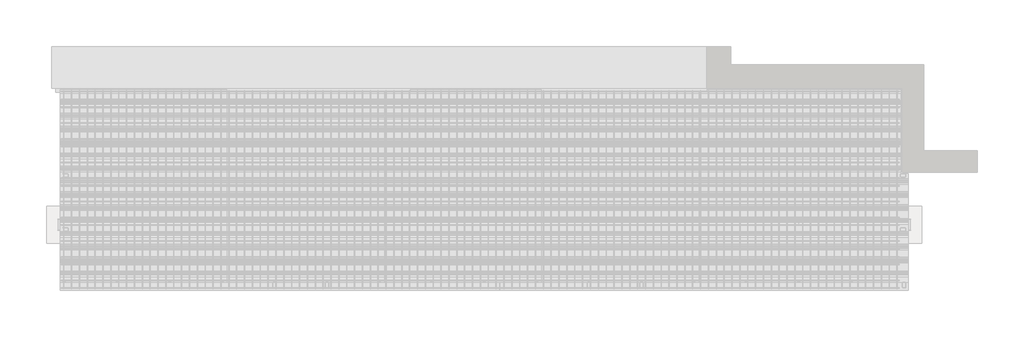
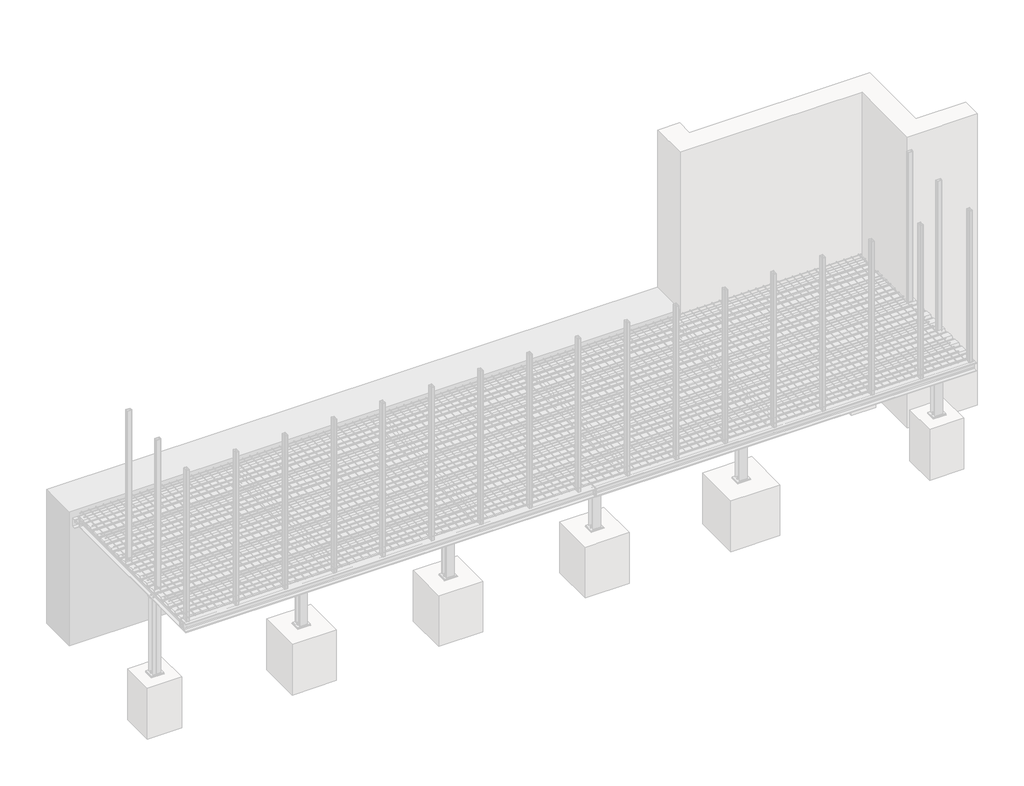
# One storey, part 29 of 36: 29 assemblies.
"""IFC4 building model written with IfcOpenShell, lengths in millimetres."""

from ifc_helpers import new_model, si_unit, point, frame, frame_2d, origin, place, context, project, spatial, polyline, circle_curve, trimmed, segment, composite_curve, outline, extrude, faceted_brep, element, save

model = new_model("IFC4")

# Units and contexts
model_context = context("Model", 3, world=origin())
ifc_project = project(units=[si_unit("LENGTHUNIT", "METRE", prefix="MILLI")], contexts=[model_context])

# Site, building, storey
site = spatial("IfcSite", under=ifc_project)
building = spatial("IfcBuilding", under=site)
storey = spatial("IfcBuildingStorey", under=building, Name="Základy", Elevation=-1200.0)

# Assemblies
placement = place(None, origin())
element("IfcElementAssembly", 1, at=placement, inside=storey, context=model_context, shape_type="SweptSolid", body=[
    extrude(outline(composite_curve([segment(polyline([(11073.6, 60.0), (11026.4, 60.0)]), True, "CONTINUOUS"), segment(trimmed(circle_curve(frame_2d((11026.4, 66.4)), 6.4), [point((11026.4, 60.0))], [point((11020.0, 66.4))], False, "CARTESIAN"), True, "CONTINUOUS"), segment(polyline([(11020.0, 66.4), (11020.0, 153.6)]), True, "CONTINUOUS"), segment(trimmed(circle_curve(frame_2d((11026.4, 153.6)), 6.4), [point((11020.0, 153.6))], [point((11026.4, 160.0))], False, "CARTESIAN"), True, "CONTINUOUS"), segment(polyline([(11026.4, 160.0), (11073.6, 160.0)]), True, "CONTINUOUS"), segment(trimmed(circle_curve(frame_2d((11073.6, 153.6)), 6.4), [point((11073.6, 160.0))], [point((11080.0, 153.6))], False, "CARTESIAN"), True, "CONTINUOUS"), segment(polyline([(11080.0, 153.6), (11080.0, 66.4)]), True, "CONTINUOUS"), segment(trimmed(circle_curve(frame_2d((11073.6, 66.4)), 6.4), [point((11080.0, 66.4))], [point((11073.6, 60.0))], False, "CARTESIAN"), True, "CONTINUOUS")], self_intersect=False), holes=[composite_curve([segment(trimmed(circle_curve(frame_2d((11073.6, 66.4)), 3.2), [point((11073.6, 63.2))], [point((11076.8, 66.4))], True, "CARTESIAN"), True, "CONTINUOUS"), segment(polyline([(11076.8, 66.4), (11076.8, 153.6)]), True, "CONTINUOUS"), segment(trimmed(circle_curve(frame_2d((11073.6, 153.6)), 3.2), [point((11076.8, 153.6))], [point((11073.6, 156.8))], True, "CARTESIAN"), True, "CONTINUOUS"), segment(polyline([(11073.6, 156.8), (11026.4, 156.8)]), True, "CONTINUOUS"), segment(trimmed(circle_curve(frame_2d((11026.4, 153.6)), 3.2), [point((11026.4, 156.8))], [point((11023.2, 153.6))], True, "CARTESIAN"), True, "CONTINUOUS"), segment(polyline([(11023.2, 153.6), (11023.2, 66.4)]), True, "CONTINUOUS"), segment(trimmed(circle_curve(frame_2d((11026.4, 66.4)), 3.2), [point((11023.2, 66.4))], [point((11026.4, 63.2))], True, "CARTESIAN"), True, "CONTINUOUS"), segment(polyline([(11026.4, 63.2), (11073.6, 63.2)]), True, "CONTINUOUS")], self_intersect=False)]), frame((0.0, 0.0, -160.0), z_axis=(0.0, 0.0, 1.0), x_axis=(1.0, 0.0, 0.0)), (0.0, 0.0, 1.0), 3320.0),
])
element("IfcElementAssembly", 2, at=placement, inside=storey, context=model_context, shape_type="SweptSolid", body=[
    extrude(outline(composite_curve([segment(polyline([(10073.6, 60.0), (10026.4, 60.0)]), True, "CONTINUOUS"), segment(trimmed(circle_curve(frame_2d((10026.4, 66.4)), 6.4), [point((10026.4, 60.0))], [point((10020.0, 66.4))], False, "CARTESIAN"), True, "CONTINUOUS"), segment(polyline([(10020.0, 66.4), (10020.0, 153.6)]), True, "CONTINUOUS"), segment(trimmed(circle_curve(frame_2d((10026.4, 153.6)), 6.4), [point((10020.0, 153.6))], [point((10026.4, 160.0))], False, "CARTESIAN"), True, "CONTINUOUS"), segment(polyline([(10026.4, 160.0), (10073.6, 160.0)]), True, "CONTINUOUS"), segment(trimmed(circle_curve(frame_2d((10073.6, 153.6)), 6.4), [point((10073.6, 160.0))], [point((10080.0, 153.6))], False, "CARTESIAN"), True, "CONTINUOUS"), segment(polyline([(10080.0, 153.6), (10080.0, 66.4)]), True, "CONTINUOUS"), segment(trimmed(circle_curve(frame_2d((10073.6, 66.4)), 6.4), [point((10080.0, 66.4))], [point((10073.6, 60.0))], False, "CARTESIAN"), True, "CONTINUOUS")], self_intersect=False), holes=[composite_curve([segment(trimmed(circle_curve(frame_2d((10073.6, 66.4)), 3.2), [point((10073.6, 63.2))], [point((10076.8, 66.4))], True, "CARTESIAN"), True, "CONTINUOUS"), segment(polyline([(10076.8, 66.4), (10076.8, 153.6)]), True, "CONTINUOUS"), segment(trimmed(circle_curve(frame_2d((10073.6, 153.6)), 3.2), [point((10076.8, 153.6))], [point((10073.6, 156.8))], True, "CARTESIAN"), True, "CONTINUOUS"), segment(polyline([(10073.6, 156.8), (10026.4, 156.8)]), True, "CONTINUOUS"), segment(trimmed(circle_curve(frame_2d((10026.4, 153.6)), 3.2), [point((10026.4, 156.8))], [point((10023.2, 153.6))], True, "CARTESIAN"), True, "CONTINUOUS"), segment(polyline([(10023.2, 153.6), (10023.2, 66.4)]), True, "CONTINUOUS"), segment(trimmed(circle_curve(frame_2d((10026.4, 66.4)), 3.2), [point((10023.2, 66.4))], [point((10026.4, 63.2))], True, "CARTESIAN"), True, "CONTINUOUS"), segment(polyline([(10026.4, 63.2), (10073.6, 63.2)]), True, "CONTINUOUS")], self_intersect=False)]), frame((0.0, 0.0, -160.0), z_axis=(0.0, 0.0, 1.0), x_axis=(1.0, 0.0, 0.0)), (0.0, 0.0, 1.0), 3320.0),
])
element("IfcElementAssembly", 3, at=placement, inside=storey, context=model_context, shape_type="SweptSolid", body=[
    extrude(outline(composite_curve([segment(polyline([(1200.0, -193.0), (1320.0, -193.0), (1320.0, -201.0), (1274.5, -201.0)]), True, "CONTINUOUS"), segment(trimmed(circle_curve(frame_2d((1274.5, -213.0)), 12.0), [point((1274.5, -201.0))], [point((1262.5, -213.0))], True, "CARTESIAN"), True, "CONTINUOUS"), segment(polyline([(1262.5, -213.0), (1262.5, -287.0)]), True, "CONTINUOUS"), segment(trimmed(circle_curve(frame_2d((1274.5, -287.0)), 12.0), [point((1262.5, -287.0))], [point((1274.5, -299.0))], True, "CARTESIAN"), True, "CONTINUOUS"), segment(polyline([(1274.5, -299.0), (1320.0, -299.0), (1320.0, -307.0), (1200.0, -307.0), (1200.0, -299.0), (1245.5, -299.0)]), True, "CONTINUOUS"), segment(trimmed(circle_curve(frame_2d((1245.5, -287.0)), 12.0), [point((1245.5, -299.0))], [point((1257.5, -287.0))], True, "CARTESIAN"), True, "CONTINUOUS"), segment(polyline([(1257.5, -287.0), (1257.5, -213.0)]), True, "CONTINUOUS"), segment(trimmed(circle_curve(frame_2d((1245.5, -213.0)), 12.0), [point((1257.5, -213.0))], [point((1245.5, -201.0))], True, "CARTESIAN"), True, "CONTINUOUS"), segment(polyline([(1245.5, -201.0), (1200.0, -201.0), (1200.0, -193.0)]), True, "CONTINUOUS")], self_intersect=False)), frame((9160.0, 0.0, 0.0), z_axis=(1.0, 0.0, 0.0), x_axis=(0.0, 1.0, 0.0)), (0.0, 0.0, 1.0), 2780.0),
    extrude(outline(polyline([(11940.0, 1200.0), (11940.0, 1320.0), (11950.0, 1320.0), (11950.0, 1200.0), (11940.0, 1200.0)])), frame((0.0, 0.0, -299.0), z_axis=(0.0, 0.0, 1.0), x_axis=(1.0, 0.0, 0.0)), (0.0, 0.0, 1.0), 98.0),
    extrude(outline(polyline([(9150.0, 1200.0), (9150.0, 1320.0), (9160.0, 1320.0), (9160.0, 1200.0), (9150.0, 1200.0)])), frame((0.0, 0.0, -299.0), z_axis=(0.0, 0.0, 1.0), x_axis=(1.0, 0.0, 0.0)), (0.0, 0.0, 1.0), 98.0),
])
element("IfcElementAssembly", 4, at=placement, inside=storey, context=model_context, shape_type="SweptSolid", body=[
    extrude(outline(composite_curve([segment(polyline([(9130.0, 1184.0), (8970.0, 1184.0), (8970.0, 1193.0), (9032.0, 1193.0)]), True, "CONTINUOUS"), segment(trimmed(circle_curve(frame_2d((9032.0, 1208.0)), 15.0), [point((9032.0, 1193.0))], [point((9047.0, 1208.0))], True, "CARTESIAN"), True, "CONTINUOUS"), segment(polyline([(9047.0, 1208.0), (9047.0, 1312.0)]), True, "CONTINUOUS"), segment(trimmed(circle_curve(frame_2d((9032.0, 1312.0)), 15.0), [point((9047.0, 1312.0))], [point((9032.0, 1327.0))], True, "CARTESIAN"), True, "CONTINUOUS"), segment(polyline([(9032.0, 1327.0), (8970.0, 1327.0), (8970.0, 1336.0), (9130.0, 1336.0), (9130.0, 1327.0), (9068.0, 1327.0)]), True, "CONTINUOUS"), segment(trimmed(circle_curve(frame_2d((9068.0, 1312.0)), 15.0), [point((9068.0, 1327.0))], [point((9053.0, 1312.0))], True, "CARTESIAN"), True, "CONTINUOUS"), segment(polyline([(9053.0, 1312.0), (9053.0, 1208.0)]), True, "CONTINUOUS"), segment(trimmed(circle_curve(frame_2d((9068.0, 1208.0)), 15.0), [point((9053.0, 1208.0))], [point((9068.0, 1193.0))], True, "CARTESIAN"), True, "CONTINUOUS"), segment(polyline([(9068.0, 1193.0), (9130.0, 1193.0), (9130.0, 1184.0)]), True, "CONTINUOUS")], self_intersect=False)), frame((0.0, 0.0, -1975.0), z_axis=(0.0, 0.0, 1.0), x_axis=(1.0, 0.0, 0.0)), (0.0, 0.0, 1.0), 1625.0),
    extrude(outline(polyline([(9175.0, 1356.0), (9175.0, 1164.0), (8925.0, 1164.0), (8925.0, 1356.0), (9175.0, 1356.0)])), frame((0.0, 0.0, -1990.0), z_axis=(0.0, 0.0, 1.0), x_axis=(1.0, 0.0, 0.0)), (0.0, 0.0, 1.0), 15.0),
    extrude(outline(polyline([(9140.0, 1346.0), (9140.0, 1174.0), (8960.0, 1174.0), (8960.0, 1346.0), (9140.0, 1346.0)])), frame((0.0, 0.0, -350.0), z_axis=(0.0, 0.0, 1.0), x_axis=(1.0, 0.0, 0.0)), (0.0, 0.0, 1.0), 10.0),
    extrude(outline(polyline([(8982.7364934, 1260.0), (8978.8682467, 1253.3000002), (8971.1317533, 1253.3000002), (8967.2635066, 1260.0), (8971.1317533, 1266.6999998), (8978.8682467, 1266.6999998), (8982.7364934, 1260.0)])), frame((0.0, 0.0, -2122.0), z_axis=(0.0, 0.0, 1.0), x_axis=(1.0, 0.0, 0.0)), (0.0, 0.0, 1.0), 132.0),
    extrude(outline(composite_curve([segment(trimmed(circle_curve(frame_2d((8975.0, 1260.0)), 8.0), [point((8983.0, 1260.0))], [point((8967.0, 1260.0))], False, "CARTESIAN"), True, "CONTINUOUS"), segment(trimmed(circle_curve(frame_2d((8975.0, 1260.0)), 8.0), [point((8967.0, 1260.0))], [point((8983.0, 1260.0))], False, "CARTESIAN"), True, "CONTINUOUS")], self_intersect=False)), frame((0.0, 0.0, -1990.0), z_axis=(0.0, 0.0, 1.0), x_axis=(1.0, 0.0, 0.0)), (0.0, 0.0, 1.0), 58.0),
    extrude(outline(composite_curve([segment(trimmed(circle_curve(frame_2d((8975.0, 1260.0)), 15.0), [point((8990.0, 1260.0))], [point((8960.0, 1260.0))], False, "CARTESIAN"), True, "CONTINUOUS"), segment(trimmed(circle_curve(frame_2d((8975.0, 1260.0)), 15.0), [point((8960.0, 1260.0))], [point((8990.0, 1260.0))], False, "CARTESIAN"), True, "CONTINUOUS")], self_intersect=False)), frame((0.0, 0.0, -1975.0), z_axis=(0.0, 0.0, 1.0), x_axis=(1.0, 0.0, 0.0)), (0.0, 0.0, 1.0), 3.0),
    extrude(outline(polyline([(8990.4441197, 1260.0), (8982.7220599, 1246.625), (8967.2779401, 1246.625), (8959.5558803, 1260.0), (8967.2779401, 1273.375), (8982.7220599, 1273.375), (8990.4441197, 1260.0)])), frame((0.0, 0.0, -1972.0), z_axis=(0.0, 0.0, 1.0), x_axis=(1.0, 0.0, 0.0)), (0.0, 0.0, 1.0), 13.0),
    extrude(outline(composite_curve([segment(trimmed(circle_curve(frame_2d((8975.0, 1260.0)), 9.0), [point((8984.0, 1260.0))], [point((8966.0, 1260.0))], False, "CARTESIAN"), True, "CONTINUOUS"), segment(trimmed(circle_curve(frame_2d((8975.0, 1260.0)), 9.0), [point((8966.0, 1260.0))], [point((8984.0, 1260.0))], False, "CARTESIAN"), True, "CONTINUOUS")], self_intersect=False)), frame((0.0, 0.0, -1990.0), z_axis=(0.0, 0.0, 1.0), x_axis=(1.0, 0.0, 0.0)), (0.0, 0.0, 1.0), 15.1),
    extrude(outline(polyline([(9132.7364934, 1260.0), (9128.8682467, 1253.3000002), (9121.1317533, 1253.3000002), (9117.2635066, 1260.0), (9121.1317533, 1266.6999998), (9128.8682467, 1266.6999998), (9132.7364934, 1260.0)])), frame((0.0, 0.0, -2122.0), z_axis=(0.0, 0.0, 1.0), x_axis=(1.0, 0.0, 0.0)), (0.0, 0.0, 1.0), 132.0),
    extrude(outline(composite_curve([segment(trimmed(circle_curve(frame_2d((9125.0, 1260.0)), 8.0), [point((9133.0, 1260.0))], [point((9117.0, 1260.0))], False, "CARTESIAN"), True, "CONTINUOUS"), segment(trimmed(circle_curve(frame_2d((9125.0, 1260.0)), 8.0), [point((9117.0, 1260.0))], [point((9133.0, 1260.0))], False, "CARTESIAN"), True, "CONTINUOUS")], self_intersect=False)), frame((0.0, 0.0, -1990.0), z_axis=(0.0, 0.0, 1.0), x_axis=(1.0, 0.0, 0.0)), (0.0, 0.0, 1.0), 58.0),
    extrude(outline(composite_curve([segment(trimmed(circle_curve(frame_2d((9125.0, 1260.0)), 15.0), [point((9140.0, 1260.0))], [point((9110.0, 1260.0))], False, "CARTESIAN"), True, "CONTINUOUS"), segment(trimmed(circle_curve(frame_2d((9125.0, 1260.0)), 15.0), [point((9110.0, 1260.0))], [point((9140.0, 1260.0))], False, "CARTESIAN"), True, "CONTINUOUS")], self_intersect=False)), frame((0.0, 0.0, -1975.0), z_axis=(0.0, 0.0, 1.0), x_axis=(1.0, 0.0, 0.0)), (0.0, 0.0, 1.0), 3.0),
    extrude(outline(polyline([(9140.4441197, 1260.0), (9132.7220599, 1246.625), (9117.2779401, 1246.625), (9109.5558803, 1260.0), (9117.2779401, 1273.375), (9132.7220599, 1273.375), (9140.4441197, 1260.0)])), frame((0.0, 0.0, -1972.0), z_axis=(0.0, 0.0, 1.0), x_axis=(1.0, 0.0, 0.0)), (0.0, 0.0, 1.0), 13.0),
    extrude(outline(composite_curve([segment(trimmed(circle_curve(frame_2d((9125.0, 1260.0)), 9.0), [point((9134.0, 1260.0))], [point((9116.0, 1260.0))], False, "CARTESIAN"), True, "CONTINUOUS"), segment(trimmed(circle_curve(frame_2d((9125.0, 1260.0)), 9.0), [point((9116.0, 1260.0))], [point((9134.0, 1260.0))], False, "CARTESIAN"), True, "CONTINUOUS")], self_intersect=False)), frame((0.0, 0.0, -1990.0), z_axis=(0.0, 0.0, 1.0), x_axis=(1.0, 0.0, 0.0)), (0.0, 0.0, 1.0), 15.1),
    extrude(outline(composite_curve([segment(trimmed(circle_curve(frame_2d((9000.0, 1220.0)), 6.5), [point((9006.5, 1220.0))], [point((8993.5, 1220.0))], False, "CARTESIAN"), True, "CONTINUOUS"), segment(trimmed(circle_curve(frame_2d((9000.0, 1220.0)), 6.5), [point((8993.5, 1220.0))], [point((9006.5, 1220.0))], False, "CARTESIAN"), True, "CONTINUOUS")], self_intersect=False)), frame((0.0, 0.0, -350.0), z_axis=(0.0, 0.0, 1.0), x_axis=(1.0, 0.0, 0.0)), (0.0, 0.0, 1.0), 10.1),
    extrude(outline(polyline([(9010.3923048, 1220.0), (9005.1961524, 1211.0), (8994.8038476, 1211.0), (8989.6076952, 1220.0), (8994.8038476, 1229.0), (9005.1961524, 1229.0), (9010.3923048, 1220.0)])), frame((0.0, 0.0, -323.5), z_axis=(0.0, 0.0, 1.0), x_axis=(1.0, 0.0, 0.0)), (0.0, 0.0, 1.0), 7.5),
    extrude(outline(composite_curve([segment(trimmed(circle_curve(frame_2d((9000.0, 1220.0)), 6.0), [point((9006.0, 1220.0))], [point((8994.0, 1220.0))], False, "CARTESIAN"), True, "CONTINUOUS"), segment(trimmed(circle_curve(frame_2d((9000.0, 1220.0)), 6.0), [point((8994.0, 1220.0))], [point((9006.0, 1220.0))], False, "CARTESIAN"), True, "CONTINUOUS")], self_intersect=False)), frame((0.0, 0.0, -368.5), z_axis=(0.0, 0.0, 1.0), x_axis=(1.0, 0.0, 0.0)), (0.0, 0.0, 1.0), 45.0),
    extrude(outline(composite_curve([segment(trimmed(circle_curve(frame_2d((9000.0, 1220.0)), 12.0), [point((9012.0, 1220.0))], [point((8988.0, 1220.0))], False, "CARTESIAN"), True, "CONTINUOUS"), segment(trimmed(circle_curve(frame_2d((9000.0, 1220.0)), 12.0), [point((8988.0, 1220.0))], [point((9012.0, 1220.0))], False, "CARTESIAN"), True, "CONTINUOUS")], self_intersect=False)), frame((0.0, 0.0, -326.0), z_axis=(0.0, 0.0, 1.0), x_axis=(1.0, 0.0, 0.0)), (0.0, 0.0, 1.0), 2.5),
    extrude(outline(composite_curve([segment(trimmed(circle_curve(frame_2d((9000.0, 1220.0)), 12.0), [point((9012.0, 1220.0))], [point((8988.0, 1220.0))], False, "CARTESIAN"), True, "CONTINUOUS"), segment(trimmed(circle_curve(frame_2d((9000.0, 1220.0)), 12.0), [point((8988.0, 1220.0))], [point((9012.0, 1220.0))], False, "CARTESIAN"), True, "CONTINUOUS")], self_intersect=False)), frame((0.0, 0.0, -352.5), z_axis=(0.0, 0.0, 1.0), x_axis=(1.0, 0.0, 0.0)), (0.0, 0.0, 1.0), 2.5),
    extrude(outline(polyline([(9010.9696551, 1220.0), (9005.4848276, 1210.5), (8994.5151724, 1210.5), (8989.0303449, 1220.0), (8994.5151724, 1229.5), (9005.4848276, 1229.5), (9010.9696551, 1220.0)])), frame((0.0, 0.0, -362.5), z_axis=(0.0, 0.0, 1.0), x_axis=(1.0, 0.0, 0.0)), (0.0, 0.0, 1.0), 10.0),
    extrude(outline(composite_curve([segment(trimmed(circle_curve(frame_2d((9000.0, 1220.0)), 6.5), [point((9006.5, 1220.0))], [point((8993.5, 1220.0))], False, "CARTESIAN"), True, "CONTINUOUS"), segment(trimmed(circle_curve(frame_2d((9000.0, 1220.0)), 6.5), [point((8993.5, 1220.0))], [point((9006.5, 1220.0))], False, "CARTESIAN"), True, "CONTINUOUS")], self_intersect=False)), frame((0.0, 0.0, -340.1), z_axis=(0.0, 0.0, 1.0), x_axis=(1.0, 0.0, 0.0)), (0.0, 0.0, 1.0), 14.0),
    extrude(outline(composite_curve([segment(trimmed(circle_curve(frame_2d((9100.0, 1220.0)), 6.5), [point((9106.5, 1220.0))], [point((9093.5, 1220.0))], False, "CARTESIAN"), True, "CONTINUOUS"), segment(trimmed(circle_curve(frame_2d((9100.0, 1220.0)), 6.5), [point((9093.5, 1220.0))], [point((9106.5, 1220.0))], False, "CARTESIAN"), True, "CONTINUOUS")], self_intersect=False)), frame((0.0, 0.0, -350.0), z_axis=(0.0, 0.0, 1.0), x_axis=(1.0, 0.0, 0.0)), (0.0, 0.0, 1.0), 10.1),
    extrude(outline(polyline([(9110.3923048, 1220.0), (9105.1961524, 1211.0), (9094.8038476, 1211.0), (9089.6076952, 1220.0), (9094.8038476, 1229.0), (9105.1961524, 1229.0), (9110.3923048, 1220.0)])), frame((0.0, 0.0, -323.5), z_axis=(0.0, 0.0, 1.0), x_axis=(1.0, 0.0, 0.0)), (0.0, 0.0, 1.0), 7.5),
    extrude(outline(composite_curve([segment(trimmed(circle_curve(frame_2d((9100.0, 1220.0)), 6.0), [point((9106.0, 1220.0))], [point((9094.0, 1220.0))], False, "CARTESIAN"), True, "CONTINUOUS"), segment(trimmed(circle_curve(frame_2d((9100.0, 1220.0)), 6.0), [point((9094.0, 1220.0))], [point((9106.0, 1220.0))], False, "CARTESIAN"), True, "CONTINUOUS")], self_intersect=False)), frame((0.0, 0.0, -368.5), z_axis=(0.0, 0.0, 1.0), x_axis=(1.0, 0.0, 0.0)), (0.0, 0.0, 1.0), 45.0),
    extrude(outline(composite_curve([segment(trimmed(circle_curve(frame_2d((9100.0, 1220.0)), 12.0), [point((9112.0, 1220.0))], [point((9088.0, 1220.0))], False, "CARTESIAN"), True, "CONTINUOUS"), segment(trimmed(circle_curve(frame_2d((9100.0, 1220.0)), 12.0), [point((9088.0, 1220.0))], [point((9112.0, 1220.0))], False, "CARTESIAN"), True, "CONTINUOUS")], self_intersect=False)), frame((0.0, 0.0, -326.0), z_axis=(0.0, 0.0, 1.0), x_axis=(1.0, 0.0, 0.0)), (0.0, 0.0, 1.0), 2.5),
    extrude(outline(composite_curve([segment(trimmed(circle_curve(frame_2d((9100.0, 1220.0)), 12.0), [point((9112.0, 1220.0))], [point((9088.0, 1220.0))], False, "CARTESIAN"), True, "CONTINUOUS"), segment(trimmed(circle_curve(frame_2d((9100.0, 1220.0)), 12.0), [point((9088.0, 1220.0))], [point((9112.0, 1220.0))], False, "CARTESIAN"), True, "CONTINUOUS")], self_intersect=False)), frame((0.0, 0.0, -352.5), z_axis=(0.0, 0.0, 1.0), x_axis=(1.0, 0.0, 0.0)), (0.0, 0.0, 1.0), 2.5),
    extrude(outline(polyline([(9110.9696551, 1220.0), (9105.4848276, 1210.5), (9094.5151724, 1210.5), (9089.0303449, 1220.0), (9094.5151724, 1229.5), (9105.4848276, 1229.5), (9110.9696551, 1220.0)])), frame((0.0, 0.0, -362.5), z_axis=(0.0, 0.0, 1.0), x_axis=(1.0, 0.0, 0.0)), (0.0, 0.0, 1.0), 10.0),
    extrude(outline(composite_curve([segment(trimmed(circle_curve(frame_2d((9100.0, 1220.0)), 6.5), [point((9106.5, 1220.0))], [point((9093.5, 1220.0))], False, "CARTESIAN"), True, "CONTINUOUS"), segment(trimmed(circle_curve(frame_2d((9100.0, 1220.0)), 6.5), [point((9093.5, 1220.0))], [point((9106.5, 1220.0))], False, "CARTESIAN"), True, "CONTINUOUS")], self_intersect=False)), frame((0.0, 0.0, -340.1), z_axis=(0.0, 0.0, 1.0), x_axis=(1.0, 0.0, 0.0)), (0.0, 0.0, 1.0), 14.0),
    extrude(outline(composite_curve([segment(trimmed(circle_curve(frame_2d((9000.0, 1300.0)), 6.5), [point((9006.5, 1300.0))], [point((8993.5, 1300.0))], False, "CARTESIAN"), True, "CONTINUOUS"), segment(trimmed(circle_curve(frame_2d((9000.0, 1300.0)), 6.5), [point((8993.5, 1300.0))], [point((9006.5, 1300.0))], False, "CARTESIAN"), True, "CONTINUOUS")], self_intersect=False)), frame((0.0, 0.0, -350.0), z_axis=(0.0, 0.0, 1.0), x_axis=(1.0, 0.0, 0.0)), (0.0, 0.0, 1.0), 10.1),
    extrude(outline(polyline([(9010.3923048, 1300.0), (9005.1961524, 1291.0), (8994.8038476, 1291.0), (8989.6076952, 1300.0), (8994.8038476, 1309.0), (9005.1961524, 1309.0), (9010.3923048, 1300.0)])), frame((0.0, 0.0, -323.5), z_axis=(0.0, 0.0, 1.0), x_axis=(1.0, 0.0, 0.0)), (0.0, 0.0, 1.0), 7.5),
    extrude(outline(composite_curve([segment(trimmed(circle_curve(frame_2d((9000.0, 1300.0)), 6.0), [point((9006.0, 1300.0))], [point((8994.0, 1300.0))], False, "CARTESIAN"), True, "CONTINUOUS"), segment(trimmed(circle_curve(frame_2d((9000.0, 1300.0)), 6.0), [point((8994.0, 1300.0))], [point((9006.0, 1300.0))], False, "CARTESIAN"), True, "CONTINUOUS")], self_intersect=False)), frame((0.0, 0.0, -368.5), z_axis=(0.0, 0.0, 1.0), x_axis=(1.0, 0.0, 0.0)), (0.0, 0.0, 1.0), 45.0),
    extrude(outline(composite_curve([segment(trimmed(circle_curve(frame_2d((9000.0, 1300.0)), 12.0), [point((9012.0, 1300.0))], [point((8988.0, 1300.0))], False, "CARTESIAN"), True, "CONTINUOUS"), segment(trimmed(circle_curve(frame_2d((9000.0, 1300.0)), 12.0), [point((8988.0, 1300.0))], [point((9012.0, 1300.0))], False, "CARTESIAN"), True, "CONTINUOUS")], self_intersect=False)), frame((0.0, 0.0, -326.0), z_axis=(0.0, 0.0, 1.0), x_axis=(1.0, 0.0, 0.0)), (0.0, 0.0, 1.0), 2.5),
    extrude(outline(composite_curve([segment(trimmed(circle_curve(frame_2d((9000.0, 1300.0)), 12.0), [point((9012.0, 1300.0))], [point((8988.0, 1300.0))], False, "CARTESIAN"), True, "CONTINUOUS"), segment(trimmed(circle_curve(frame_2d((9000.0, 1300.0)), 12.0), [point((8988.0, 1300.0))], [point((9012.0, 1300.0))], False, "CARTESIAN"), True, "CONTINUOUS")], self_intersect=False)), frame((0.0, 0.0, -352.5), z_axis=(0.0, 0.0, 1.0), x_axis=(1.0, 0.0, 0.0)), (0.0, 0.0, 1.0), 2.5),
    extrude(outline(polyline([(9010.9696551, 1300.0), (9005.4848276, 1290.5), (8994.5151724, 1290.5), (8989.0303449, 1300.0), (8994.5151724, 1309.5), (9005.4848276, 1309.5), (9010.9696551, 1300.0)])), frame((0.0, 0.0, -362.5), z_axis=(0.0, 0.0, 1.0), x_axis=(1.0, 0.0, 0.0)), (0.0, 0.0, 1.0), 10.0),
    extrude(outline(composite_curve([segment(trimmed(circle_curve(frame_2d((9000.0, 1300.0)), 6.5), [point((9006.5, 1300.0))], [point((8993.5, 1300.0))], False, "CARTESIAN"), True, "CONTINUOUS"), segment(trimmed(circle_curve(frame_2d((9000.0, 1300.0)), 6.5), [point((8993.5, 1300.0))], [point((9006.5, 1300.0))], False, "CARTESIAN"), True, "CONTINUOUS")], self_intersect=False)), frame((0.0, 0.0, -340.1), z_axis=(0.0, 0.0, 1.0), x_axis=(1.0, 0.0, 0.0)), (0.0, 0.0, 1.0), 14.0),
    extrude(outline(composite_curve([segment(trimmed(circle_curve(frame_2d((9100.0, 1300.0)), 6.5), [point((9106.5, 1300.0))], [point((9093.5, 1300.0))], False, "CARTESIAN"), True, "CONTINUOUS"), segment(trimmed(circle_curve(frame_2d((9100.0, 1300.0)), 6.5), [point((9093.5, 1300.0))], [point((9106.5, 1300.0))], False, "CARTESIAN"), True, "CONTINUOUS")], self_intersect=False)), frame((0.0, 0.0, -350.0), z_axis=(0.0, 0.0, 1.0), x_axis=(1.0, 0.0, 0.0)), (0.0, 0.0, 1.0), 10.1),
    extrude(outline(polyline([(9110.3923048, 1300.0), (9105.1961524, 1291.0), (9094.8038476, 1291.0), (9089.6076952, 1300.0), (9094.8038476, 1309.0), (9105.1961524, 1309.0), (9110.3923048, 1300.0)])), frame((0.0, 0.0, -323.5), z_axis=(0.0, 0.0, 1.0), x_axis=(1.0, 0.0, 0.0)), (0.0, 0.0, 1.0), 7.5),
    extrude(outline(composite_curve([segment(trimmed(circle_curve(frame_2d((9100.0, 1300.0)), 6.0), [point((9106.0, 1300.0))], [point((9094.0, 1300.0))], False, "CARTESIAN"), True, "CONTINUOUS"), segment(trimmed(circle_curve(frame_2d((9100.0, 1300.0)), 6.0), [point((9094.0, 1300.0))], [point((9106.0, 1300.0))], False, "CARTESIAN"), True, "CONTINUOUS")], self_intersect=False)), frame((0.0, 0.0, -368.5), z_axis=(0.0, 0.0, 1.0), x_axis=(1.0, 0.0, 0.0)), (0.0, 0.0, 1.0), 45.0),
    extrude(outline(composite_curve([segment(trimmed(circle_curve(frame_2d((9100.0, 1300.0)), 12.0), [point((9112.0, 1300.0))], [point((9088.0, 1300.0))], False, "CARTESIAN"), True, "CONTINUOUS"), segment(trimmed(circle_curve(frame_2d((9100.0, 1300.0)), 12.0), [point((9088.0, 1300.0))], [point((9112.0, 1300.0))], False, "CARTESIAN"), True, "CONTINUOUS")], self_intersect=False)), frame((0.0, 0.0, -326.0), z_axis=(0.0, 0.0, 1.0), x_axis=(1.0, 0.0, 0.0)), (0.0, 0.0, 1.0), 2.5),
    extrude(outline(composite_curve([segment(trimmed(circle_curve(frame_2d((9100.0, 1300.0)), 12.0), [point((9112.0, 1300.0))], [point((9088.0, 1300.0))], False, "CARTESIAN"), True, "CONTINUOUS"), segment(trimmed(circle_curve(frame_2d((9100.0, 1300.0)), 12.0), [point((9088.0, 1300.0))], [point((9112.0, 1300.0))], False, "CARTESIAN"), True, "CONTINUOUS")], self_intersect=False)), frame((0.0, 0.0, -352.5), z_axis=(0.0, 0.0, 1.0), x_axis=(1.0, 0.0, 0.0)), (0.0, 0.0, 1.0), 2.5),
    extrude(outline(polyline([(9110.9696551, 1300.0), (9105.4848276, 1290.5), (9094.5151724, 1290.5), (9089.0303449, 1300.0), (9094.5151724, 1309.5), (9105.4848276, 1309.5), (9110.9696551, 1300.0)])), frame((0.0, 0.0, -362.5), z_axis=(0.0, 0.0, 1.0), x_axis=(1.0, 0.0, 0.0)), (0.0, 0.0, 1.0), 10.0),
    extrude(outline(composite_curve([segment(trimmed(circle_curve(frame_2d((9100.0, 1300.0)), 6.5), [point((9106.5, 1300.0))], [point((9093.5, 1300.0))], False, "CARTESIAN"), True, "CONTINUOUS"), segment(trimmed(circle_curve(frame_2d((9100.0, 1300.0)), 6.5), [point((9093.5, 1300.0))], [point((9106.5, 1300.0))], False, "CARTESIAN"), True, "CONTINUOUS")], self_intersect=False)), frame((0.0, 0.0, -340.1), z_axis=(0.0, 0.0, 1.0), x_axis=(1.0, 0.0, 0.0)), (0.0, 0.0, 1.0), 14.0),
])
element("IfcElementAssembly", 5, at=placement, inside=storey, context=model_context, shape_type="SweptSolid", body=[
    extrude(outline(polyline([(9500.0, 1710.0), (9500.0, 810.0), (8600.0, 810.0), (8600.0, 1710.0), (9500.0, 1710.0)])), frame((0.0, 0.0, -3100.0), z_axis=(0.0, 0.0, 1.0), x_axis=(1.0, 0.0, 0.0)), (0.0, 0.0, 1.0), 1100.0),
])
element("IfcElementAssembly", 6, at=placement, inside=storey, context=model_context, shape_type="SweptSolid", body=[
    extrude(outline(polyline([(1802.7875602, -160.0099992), (1772.2875602, -111.5000008), (1637.6975638, -111.5000008), (1607.1975638, -160.0000008), (1552.7875754, -160.0000008), (1522.2875754, -111.5000008), (1387.6975715, -111.5000008), (1357.1975715, -160.0000008), (1302.7875697, -160.0000008), (1272.2875716, -111.5000008), (1137.6975638, -111.5000008), (1107.1975638, -160.0000008), (1052.7875602, -160.0000008), (1022.2875602, -111.5000008), (887.6975638, -111.5000008), (857.1975638, -160.0000008), (802.7875602, -160.0000008), (790.7375724, -139.4300002), (803.1975638, -159.2500008), (856.7875602, -159.2500008), (887.2875602, -110.7500008), (1022.6975638, -110.7500008), (1053.1975638, -159.2500008), (1106.7875754, -159.2500008), (1137.2875754, -110.7500008), (1272.6975715, -110.7500008), (1303.1975695, -159.2500008), (1356.7875716, -159.2500008), (1387.2875678, -110.7500008), (1522.6975638, -110.7500008), (1553.1975638, -159.2500008), (1606.7875602, -159.2500008), (1637.2875602, -110.7500008), (1772.6975638, -110.7500008), (1803.1975638, -159.2500008), (1839.9975821, -160.0000008), (1802.7875602, -160.0099992)])), frame((8960.0, 0.0, 0.0), z_axis=(1.0, 0.0, 0.0), x_axis=(0.0, 1.0, 0.0)), (0.0, 0.0, 1.0), 3180.0),
])
element("IfcElementAssembly", 7, at=placement, inside=storey, context=model_context, shape_type="SweptSolid", body=[
    extrude(outline(polyline([(802.7875602, -160.0099992), (772.2875602, -111.5000008), (637.6975638, -111.5000008), (607.1975638, -160.0000008), (552.7875754, -160.0000008), (522.2875754, -111.5000008), (387.6975715, -111.5000008), (357.1975715, -160.0000008), (302.7875697, -160.0000008), (272.2875716, -111.5000008), (160.0, -111.5000008), (160.0, -110.7500008), (272.6975715, -110.7500008), (303.1975695, -159.2500008), (356.7875716, -159.2500008), (387.2875678, -110.7500008), (522.6975638, -110.7500008), (553.1975638, -159.2500008), (606.7875602, -159.2500008), (637.2875602, -110.7500008), (772.6975638, -110.7500008), (803.1975638, -159.2500008), (839.9975821, -160.0000008), (802.7875602, -160.0099992)])), frame((8960.0, 0.0, 0.0), z_axis=(1.0, 0.0, 0.0), x_axis=(0.0, 1.0, 0.0)), (0.0, 0.0, 1.0), 3180.0),
])
element("IfcElementAssembly", 8, at=placement, inside=storey, context=model_context, shape_type="Brep", body=[
    faceted_brep([(8925.0, 1356.0, -1990.0), (8925.0, 1164.0, -1990.0), (9175.0, 1164.0, -1990.0), (9175.0, 1356.0, -1990.0), (9185.0, 1154.0, -2000.0), (8915.0, 1154.0, -2000.0), (8915.0, 1366.0, -2000.0), (9185.0, 1366.0, -2000.0)], [[[0, 1, 2, 3]], [[4, 5, 6, 7]], [[5, 4, 2, 1]], [[1, 0, 6, 5]], [[7, 6, 0, 3]], [[3, 2, 4, 7]]]),
])
element("IfcElementAssembly", 9, at=placement, inside=storey, context=model_context, shape_type="SweptSolid", body=[
    extrude(outline(composite_curve([segment(trimmed(circle_curve(frame_2d((2079.992562, -139.0)), 6.0), [point((2073.992562, -139.0))], [point((2085.992562, -139.0))], False, "CARTESIAN"), True, "CONTINUOUS"), segment(trimmed(circle_curve(frame_2d((2079.992562, -139.0)), 6.0), [point((2085.992562, -139.0))], [point((2073.992562, -139.0))], False, "CARTESIAN"), True, "CONTINUOUS")], self_intersect=False)), frame((-40.0, 0.0, 0.0), z_axis=(1.0, 0.0, 0.0), x_axis=(0.0, 1.0, 0.0)), (0.0, 0.0, 1.0), 16180.0),
])
element("IfcElementAssembly", 10, at=placement, inside=storey, context=model_context, shape_type="SweptSolid", body=[
    extrude(outline(composite_curve([segment(trimmed(circle_curve(frame_2d((-49.0, 9027.5)), 4.0), [point((-49.0, 9023.5))], [point((-49.0, 9031.5))], False, "CARTESIAN"), True, "CONTINUOUS"), segment(trimmed(circle_curve(frame_2d((-49.0, 9027.5)), 4.0), [point((-49.0, 9031.5))], [point((-49.0, 9023.5))], False, "CARTESIAN"), True, "CONTINUOUS")], self_intersect=False)), frame((0.0, 35.0, 0.0), z_axis=(0.0, 1.0, 0.0), x_axis=(0.0, 0.0, 1.0)), (0.0, 0.0, 1.0), 3780.0),
])
element("IfcElementAssembly", 11, at=placement, inside=storey, context=model_context, shape_type="SweptSolid", body=[
    extrude(outline(composite_curve([segment(trimmed(circle_curve(frame_2d((-49.0, 9177.5)), 4.0), [point((-49.0, 9173.5))], [point((-49.0, 9181.5))], False, "CARTESIAN"), True, "CONTINUOUS"), segment(trimmed(circle_curve(frame_2d((-49.0, 9177.5)), 4.0), [point((-49.0, 9181.5))], [point((-49.0, 9173.5))], False, "CARTESIAN"), True, "CONTINUOUS")], self_intersect=False)), frame((0.0, 35.0, 0.0), z_axis=(0.0, 1.0, 0.0), x_axis=(0.0, 0.0, 1.0)), (0.0, 0.0, 1.0), 3780.0),
])
element("IfcElementAssembly", 12, at=placement, inside=storey, context=model_context, shape_type="SweptSolid", body=[
    extrude(outline(composite_curve([segment(trimmed(circle_curve(frame_2d((-49.0, 9327.5)), 4.0), [point((-49.0, 9323.5))], [point((-49.0, 9331.5))], False, "CARTESIAN"), True, "CONTINUOUS"), segment(trimmed(circle_curve(frame_2d((-49.0, 9327.5)), 4.0), [point((-49.0, 9331.5))], [point((-49.0, 9323.5))], False, "CARTESIAN"), True, "CONTINUOUS")], self_intersect=False)), frame((0.0, 35.0, 0.0), z_axis=(0.0, 1.0, 0.0), x_axis=(0.0, 0.0, 1.0)), (0.0, 0.0, 1.0), 3780.0),
])
element("IfcElementAssembly", 13, at=placement, inside=storey, context=model_context, shape_type="SweptSolid", body=[
    extrude(outline(composite_curve([segment(trimmed(circle_curve(frame_2d((-49.0, 9477.5)), 4.0), [point((-49.0, 9473.5))], [point((-49.0, 9481.5))], False, "CARTESIAN"), True, "CONTINUOUS"), segment(trimmed(circle_curve(frame_2d((-49.0, 9477.5)), 4.0), [point((-49.0, 9481.5))], [point((-49.0, 9473.5))], False, "CARTESIAN"), True, "CONTINUOUS")], self_intersect=False)), frame((0.0, 35.0, 0.0), z_axis=(0.0, 1.0, 0.0), x_axis=(0.0, 0.0, 1.0)), (0.0, 0.0, 1.0), 3780.0),
])
element("IfcElementAssembly", 14, at=placement, inside=storey, context=model_context, shape_type="SweptSolid", body=[
    extrude(outline(composite_curve([segment(trimmed(circle_curve(frame_2d((-49.0, 9627.5)), 4.0), [point((-49.0, 9623.5))], [point((-49.0, 9631.5))], False, "CARTESIAN"), True, "CONTINUOUS"), segment(trimmed(circle_curve(frame_2d((-49.0, 9627.5)), 4.0), [point((-49.0, 9631.5))], [point((-49.0, 9623.5))], False, "CARTESIAN"), True, "CONTINUOUS")], self_intersect=False)), frame((0.0, 35.0, 0.0), z_axis=(0.0, 1.0, 0.0), x_axis=(0.0, 0.0, 1.0)), (0.0, 0.0, 1.0), 3780.0),
])
element("IfcElementAssembly", 15, at=placement, inside=storey, context=model_context, shape_type="SweptSolid", body=[
    extrude(outline(composite_curve([segment(trimmed(circle_curve(frame_2d((-49.0, 9777.5)), 4.0), [point((-49.0, 9773.5))], [point((-49.0, 9781.5))], False, "CARTESIAN"), True, "CONTINUOUS"), segment(trimmed(circle_curve(frame_2d((-49.0, 9777.5)), 4.0), [point((-49.0, 9781.5))], [point((-49.0, 9773.5))], False, "CARTESIAN"), True, "CONTINUOUS")], self_intersect=False)), frame((0.0, 35.0, 0.0), z_axis=(0.0, 1.0, 0.0), x_axis=(0.0, 0.0, 1.0)), (0.0, 0.0, 1.0), 3780.0),
])
element("IfcElementAssembly", 16, at=placement, inside=storey, context=model_context, shape_type="SweptSolid", body=[
    extrude(outline(composite_curve([segment(trimmed(circle_curve(frame_2d((-49.0, 9927.5)), 4.0), [point((-49.0, 9923.5))], [point((-49.0, 9931.5))], False, "CARTESIAN"), True, "CONTINUOUS"), segment(trimmed(circle_curve(frame_2d((-49.0, 9927.5)), 4.0), [point((-49.0, 9931.5))], [point((-49.0, 9923.5))], False, "CARTESIAN"), True, "CONTINUOUS")], self_intersect=False)), frame((0.0, 35.0, 0.0), z_axis=(0.0, 1.0, 0.0), x_axis=(0.0, 0.0, 1.0)), (0.0, 0.0, 1.0), 3780.0),
])
element("IfcElementAssembly", 17, at=placement, inside=storey, context=model_context, shape_type="SweptSolid", body=[
    extrude(outline(composite_curve([segment(trimmed(circle_curve(frame_2d((-49.0, 10077.5)), 4.0), [point((-49.0, 10073.5))], [point((-49.0, 10081.5))], False, "CARTESIAN"), True, "CONTINUOUS"), segment(trimmed(circle_curve(frame_2d((-49.0, 10077.5)), 4.0), [point((-49.0, 10081.5))], [point((-49.0, 10073.5))], False, "CARTESIAN"), True, "CONTINUOUS")], self_intersect=False)), frame((0.0, 35.0, 0.0), z_axis=(0.0, 1.0, 0.0), x_axis=(0.0, 0.0, 1.0)), (0.0, 0.0, 1.0), 3780.0),
])
element("IfcElementAssembly", 18, at=placement, inside=storey, context=model_context, shape_type="SweptSolid", body=[
    extrude(outline(composite_curve([segment(trimmed(circle_curve(frame_2d((-49.0, 10227.5)), 4.0), [point((-49.0, 10223.5))], [point((-49.0, 10231.5))], False, "CARTESIAN"), True, "CONTINUOUS"), segment(trimmed(circle_curve(frame_2d((-49.0, 10227.5)), 4.0), [point((-49.0, 10231.5))], [point((-49.0, 10223.5))], False, "CARTESIAN"), True, "CONTINUOUS")], self_intersect=False)), frame((0.0, 35.0, 0.0), z_axis=(0.0, 1.0, 0.0), x_axis=(0.0, 0.0, 1.0)), (0.0, 0.0, 1.0), 3780.0),
])
element("IfcElementAssembly", 19, at=placement, inside=storey, context=model_context, shape_type="SweptSolid", body=[
    extrude(outline(composite_curve([segment(trimmed(circle_curve(frame_2d((-49.0, 10377.5)), 4.0), [point((-49.0, 10373.5))], [point((-49.0, 10381.5))], False, "CARTESIAN"), True, "CONTINUOUS"), segment(trimmed(circle_curve(frame_2d((-49.0, 10377.5)), 4.0), [point((-49.0, 10381.5))], [point((-49.0, 10373.5))], False, "CARTESIAN"), True, "CONTINUOUS")], self_intersect=False)), frame((0.0, 35.0, 0.0), z_axis=(0.0, 1.0, 0.0), x_axis=(0.0, 0.0, 1.0)), (0.0, 0.0, 1.0), 3780.0),
])
element("IfcElementAssembly", 20, at=placement, inside=storey, context=model_context, shape_type="SweptSolid", body=[
    extrude(outline(composite_curve([segment(trimmed(circle_curve(frame_2d((-49.0, 10527.5)), 4.0), [point((-49.0, 10523.5))], [point((-49.0, 10531.5))], False, "CARTESIAN"), True, "CONTINUOUS"), segment(trimmed(circle_curve(frame_2d((-49.0, 10527.5)), 4.0), [point((-49.0, 10531.5))], [point((-49.0, 10523.5))], False, "CARTESIAN"), True, "CONTINUOUS")], self_intersect=False)), frame((0.0, 35.0, 0.0), z_axis=(0.0, 1.0, 0.0), x_axis=(0.0, 0.0, 1.0)), (0.0, 0.0, 1.0), 3780.0),
])
element("IfcElementAssembly", 21, at=placement, inside=storey, context=model_context, shape_type="SweptSolid", body=[
    extrude(outline(composite_curve([segment(trimmed(circle_curve(frame_2d((-49.0, 10677.5)), 4.0), [point((-49.0, 10673.5))], [point((-49.0, 10681.5))], False, "CARTESIAN"), True, "CONTINUOUS"), segment(trimmed(circle_curve(frame_2d((-49.0, 10677.5)), 4.0), [point((-49.0, 10681.5))], [point((-49.0, 10673.5))], False, "CARTESIAN"), True, "CONTINUOUS")], self_intersect=False)), frame((0.0, 35.0, 0.0), z_axis=(0.0, 1.0, 0.0), x_axis=(0.0, 0.0, 1.0)), (0.0, 0.0, 1.0), 3780.0),
])
element("IfcElementAssembly", 22, at=placement, inside=storey, context=model_context, shape_type="SweptSolid", body=[
    extrude(outline(composite_curve([segment(trimmed(circle_curve(frame_2d((-49.0, 10827.5)), 4.0), [point((-49.0, 10823.5))], [point((-49.0, 10831.5))], False, "CARTESIAN"), True, "CONTINUOUS"), segment(trimmed(circle_curve(frame_2d((-49.0, 10827.5)), 4.0), [point((-49.0, 10831.5))], [point((-49.0, 10823.5))], False, "CARTESIAN"), True, "CONTINUOUS")], self_intersect=False)), frame((0.0, 35.0, 0.0), z_axis=(0.0, 1.0, 0.0), x_axis=(0.0, 0.0, 1.0)), (0.0, 0.0, 1.0), 3780.0),
])
element("IfcElementAssembly", 23, at=placement, inside=storey, context=model_context, shape_type="SweptSolid", body=[
    extrude(outline(composite_curve([segment(trimmed(circle_curve(frame_2d((-49.0, 10977.5)), 4.0), [point((-49.0, 10973.5))], [point((-49.0, 10981.5))], False, "CARTESIAN"), True, "CONTINUOUS"), segment(trimmed(circle_curve(frame_2d((-49.0, 10977.5)), 4.0), [point((-49.0, 10981.5))], [point((-49.0, 10973.5))], False, "CARTESIAN"), True, "CONTINUOUS")], self_intersect=False)), frame((0.0, 35.0, 0.0), z_axis=(0.0, 1.0, 0.0), x_axis=(0.0, 0.0, 1.0)), (0.0, 0.0, 1.0), 3780.0),
])
element("IfcElementAssembly", 24, at=placement, inside=storey, context=model_context, shape_type="SweptSolid", body=[
    extrude(outline(composite_curve([segment(trimmed(circle_curve(frame_2d((-49.0, 11127.5)), 4.0), [point((-49.0, 11123.5))], [point((-49.0, 11131.5))], False, "CARTESIAN"), True, "CONTINUOUS"), segment(trimmed(circle_curve(frame_2d((-49.0, 11127.5)), 4.0), [point((-49.0, 11131.5))], [point((-49.0, 11123.5))], False, "CARTESIAN"), True, "CONTINUOUS")], self_intersect=False)), frame((0.0, 35.0, 0.0), z_axis=(0.0, 1.0, 0.0), x_axis=(0.0, 0.0, 1.0)), (0.0, 0.0, 1.0), 3780.0),
])
element("IfcElementAssembly", 25, at=placement, inside=storey, context=model_context, shape_type="SweptSolid", body=[
    extrude(outline(composite_curve([segment(trimmed(circle_curve(frame_2d((-49.0, 11277.5)), 4.0), [point((-49.0, 11273.5))], [point((-49.0, 11281.5))], False, "CARTESIAN"), True, "CONTINUOUS"), segment(trimmed(circle_curve(frame_2d((-49.0, 11277.5)), 4.0), [point((-49.0, 11281.5))], [point((-49.0, 11273.5))], False, "CARTESIAN"), True, "CONTINUOUS")], self_intersect=False)), frame((0.0, 35.0, 0.0), z_axis=(0.0, 1.0, 0.0), x_axis=(0.0, 0.0, 1.0)), (0.0, 0.0, 1.0), 3780.0),
])
element("IfcElementAssembly", 26, at=placement, inside=storey, context=model_context, shape_type="SweptSolid", body=[
    extrude(outline(composite_curve([segment(trimmed(circle_curve(frame_2d((-49.0, 11427.5)), 4.0), [point((-49.0, 11423.5))], [point((-49.0, 11431.5))], False, "CARTESIAN"), True, "CONTINUOUS"), segment(trimmed(circle_curve(frame_2d((-49.0, 11427.5)), 4.0), [point((-49.0, 11431.5))], [point((-49.0, 11423.5))], False, "CARTESIAN"), True, "CONTINUOUS")], self_intersect=False)), frame((0.0, 35.0, 0.0), z_axis=(0.0, 1.0, 0.0), x_axis=(0.0, 0.0, 1.0)), (0.0, 0.0, 1.0), 3780.0),
])
element("IfcElementAssembly", 27, at=placement, inside=storey, context=model_context, shape_type="SweptSolid", body=[
    extrude(outline(composite_curve([segment(trimmed(circle_curve(frame_2d((-49.0, 11577.5)), 4.0), [point((-49.0, 11573.5))], [point((-49.0, 11581.5))], False, "CARTESIAN"), True, "CONTINUOUS"), segment(trimmed(circle_curve(frame_2d((-49.0, 11577.5)), 4.0), [point((-49.0, 11581.5))], [point((-49.0, 11573.5))], False, "CARTESIAN"), True, "CONTINUOUS")], self_intersect=False)), frame((0.0, 35.0, 0.0), z_axis=(0.0, 1.0, 0.0), x_axis=(0.0, 0.0, 1.0)), (0.0, 0.0, 1.0), 3780.0),
])
element("IfcElementAssembly", 28, at=placement, inside=storey, context=model_context, shape_type="SweptSolid", body=[
    extrude(outline(composite_curve([segment(trimmed(circle_curve(frame_2d((-49.0, 11727.5)), 4.0), [point((-49.0, 11723.5))], [point((-49.0, 11731.5))], False, "CARTESIAN"), True, "CONTINUOUS"), segment(trimmed(circle_curve(frame_2d((-49.0, 11727.5)), 4.0), [point((-49.0, 11731.5))], [point((-49.0, 11723.5))], False, "CARTESIAN"), True, "CONTINUOUS")], self_intersect=False)), frame((0.0, 35.0, 0.0), z_axis=(0.0, 1.0, 0.0), x_axis=(0.0, 0.0, 1.0)), (0.0, 0.0, 1.0), 3780.0),
])
element("IfcElementAssembly", 29, at=placement, inside=storey, context=model_context, shape_type="SweptSolid", body=[
    extrude(outline(composite_curve([segment(trimmed(circle_curve(frame_2d((-49.0, 11877.5)), 4.0), [point((-49.0, 11873.5))], [point((-49.0, 11881.5))], False, "CARTESIAN"), True, "CONTINUOUS"), segment(trimmed(circle_curve(frame_2d((-49.0, 11877.5)), 4.0), [point((-49.0, 11881.5))], [point((-49.0, 11873.5))], False, "CARTESIAN"), True, "CONTINUOUS")], self_intersect=False)), frame((0.0, 35.0, 0.0), z_axis=(0.0, 1.0, 0.0), x_axis=(0.0, 0.0, 1.0)), (0.0, 0.0, 1.0), 3780.0),
])

save(model, "model.ifc")
